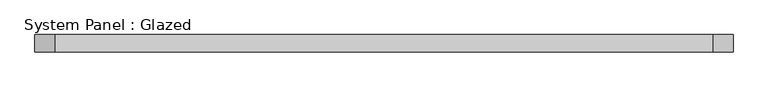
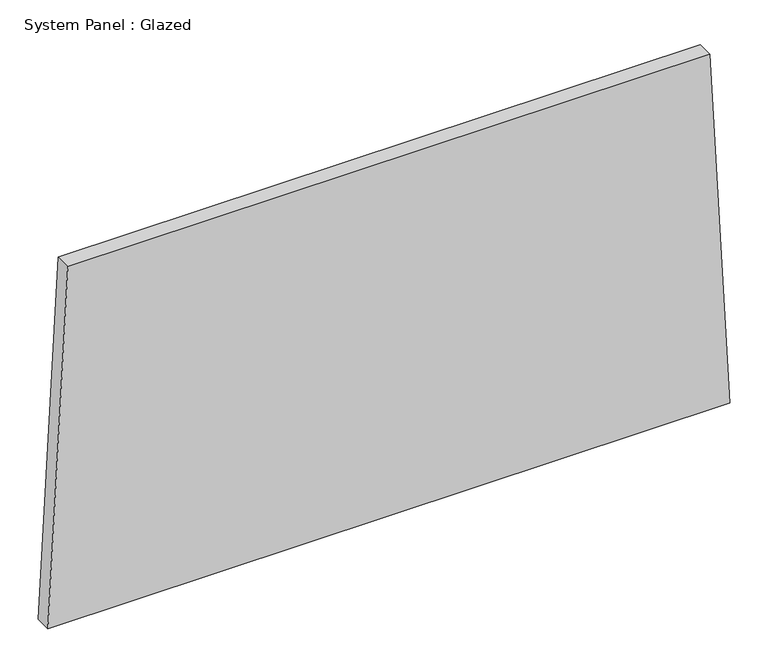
"""IFC4 building model written with IfcOpenShell, lengths in millimetres: plate geometry, System Panel : Glazed."""

from ifc_helpers import new_model, si_unit, frame, origin, place, context, project, spatial, polyline, outline, extrude, source, transform, mapped, element, save


def system_panel_glazed_3b9064ea(model_context):
    return source(origin(), model_context, "Body", "SweptSolid", [
        extrude(outline(polyline([(0.0, -517.518032), (0.0, 517.518032), (570.6406327, 487.1858142), (570.6406327, -487.1858142), (0.0, -517.518032)])), frame((0.0, 19.05, 0.0), z_axis=(0.0, 1.0, 0.0), x_axis=(0.0, 0.0, 1.0)), (0.0, 0.0, 1.0), 25.4),
    ])


if __name__ == "__main__":
    model = new_model("IFC4")
    model_context = context("Model", 3, world=origin())
    ifc_project = project(units=[si_unit("LENGTHUNIT", "METRE", prefix="MILLI")], contexts=[model_context])
    site = spatial("IfcSite", under=ifc_project)
    building = spatial("IfcBuilding", under=site)
    placement = place(None, origin())
    system_panel_glazed_shape = system_panel_glazed_3b9064ea(model_context)
    element("IfcPlate", 1, ObjectType="System Panel : Glazed", at=placement, inside=building, context=model_context, shape_type="MappedRepresentation", body=[
        mapped(system_panel_glazed_shape, transform((0.0, 0.0, 0.0), x_axis=(1.0, 0.0, 0.0), y_axis=(0.0, 1.0, 0.0), z_axis=(0.0, 0.0, 1.0))),
    ])
    save(model, "model.ifc")
